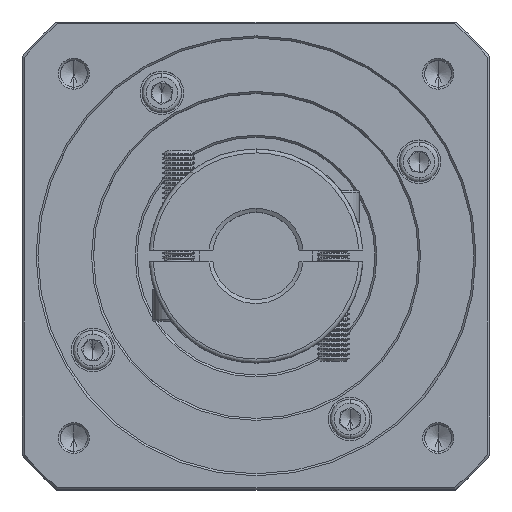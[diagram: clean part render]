
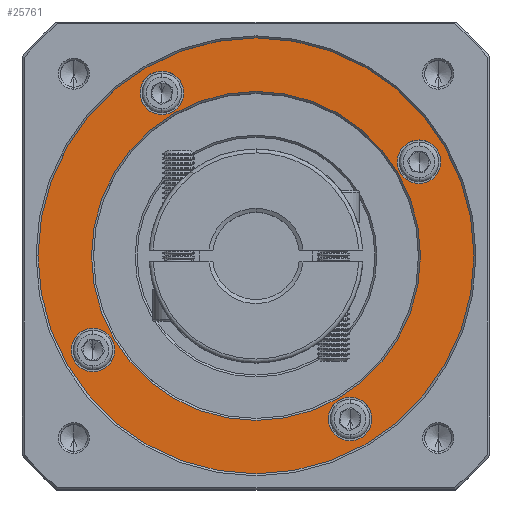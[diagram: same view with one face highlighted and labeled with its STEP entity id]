
A CAD part, top view. The second image highlights one B-rep face of the part: STEP entity #25761.
In plain terms, the highlighted planar face has unit normal (0, 0, 1).
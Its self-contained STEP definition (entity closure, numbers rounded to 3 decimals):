
#2102 = DIRECTION ( 'NONE',  ( 0., 1., 0. ) ) ;
#2251 = CARTESIAN_POINT ( 'NONE',  ( 57.501, 9.474, 8.74 ) ) ;
#3116 = ORIENTED_EDGE ( 'NONE', *, *, #64129, .T. ) ;
#4134 = EDGE_LOOP ( 'NONE', ( #32576, #31984 ) ) ;
#5985 = DIRECTION ( 'NONE',  ( 0., 0., -1. ) ) ;
#6398 = ORIENTED_EDGE ( 'NONE', *, *, #50203, .T. ) ;
#7092 = CARTESIAN_POINT ( 'NONE',  ( 98.637, 88.224, 8.74 ) ) ;
#7119 = CIRCLE ( 'NONE', #124602, 41.5 ) ;
#7774 = AXIS2_PLACEMENT_3D ( 'NONE', #83391, #60469, #135184 ) ;
#10403 = CARTESIAN_POINT ( 'NONE',  ( 16.365, 35.224, 8.74 ) ) ;
#10554 = ORIENTED_EDGE ( 'NONE', *, *, #115553, .T. ) ;
#10648 = CARTESIAN_POINT ( 'NONE',  ( 81.251, 28.838, 8.74 ) ) ;
#10695 = CARTESIAN_POINT ( 'NONE',  ( 57.501, 64.474, 8.74 ) ) ;
#11619 = DIRECTION ( 'NONE',  ( 0., 1., 0. ) ) ;
#13213 = DIRECTION ( 'NONE',  ( 0., 1., 0. ) ) ;
#13602 = CARTESIAN_POINT ( 'NONE',  ( 57.501, 64.474, 8.74 ) ) ;
#15129 = EDGE_CURVE ( 'NONE', #16536, #117195, #61656, .T. ) ;
#15306 = EDGE_LOOP ( 'NONE', ( #10554, #6398 ) ) ;
#15411 = CARTESIAN_POINT ( 'NONE',  ( 57.501, 64.474, 8.74 ) ) ;
#15869 = DIRECTION ( 'NONE',  ( 0., 0., -1. ) ) ;
#16005 = DIRECTION ( 'NONE',  ( 0., 0., -1. ) ) ;
#16536 = VERTEX_POINT ( 'NONE', #49803 ) ;
#16863 = DIRECTION ( 'NONE',  ( 0., 0., -1. ) ) ;
#17492 = AXIS2_PLACEMENT_3D ( 'NONE', #10695, #86152, #21512 ) ;
#17700 = CARTESIAN_POINT ( 'NONE',  ( 98.637, 93.724, 8.74 ) ) ;
#17953 = DIRECTION ( 'NONE',  ( 0., 1., 0. ) ) ;
#18344 = CARTESIAN_POINT ( 'NONE',  ( 16.001, 64.474, 8.74 ) ) ;
#19243 = CARTESIAN_POINT ( 'NONE',  ( 57.501, 119.474, 8.74 ) ) ;
#20431 = ORIENTED_EDGE ( 'NONE', *, *, #83870, .T. ) ;
#21488 = DIRECTION ( 'NONE',  ( 0., 0., 1. ) ) ;
#21512 = DIRECTION ( 'NONE',  ( 0., 1., 0. ) ) ;
#22593 = EDGE_LOOP ( 'NONE', ( #20431, #92758 ) ) ;
#23851 = CARTESIAN_POINT ( 'NONE',  ( 16.365, 46.224, 8.74 ) ) ;
#24418 = DIRECTION ( 'NONE',  ( 0., 1., 0. ) ) ;
#25761 = ADVANCED_FACE ( 'NONE', ( #99359, #106010, #70772, #112810, #55732, #102680 ), #77739, .T. ) ;
#29335 = VERTEX_POINT ( 'NONE', #85839 ) ;
#29792 = EDGE_LOOP ( 'NONE', ( #114916, #3116 ) ) ;
#30704 = VERTEX_POINT ( 'NONE', #45237 ) ;
#31180 = CIRCLE ( 'NONE', #86700, 5.5 ) ;
#31984 = ORIENTED_EDGE ( 'NONE', *, *, #118520, .T. ) ;
#32576 = ORIENTED_EDGE ( 'NONE', *, *, #95059, .T. ) ;
#32582 = VERTEX_POINT ( 'NONE', #19243 ) ;
#37671 = AXIS2_PLACEMENT_3D ( 'NONE', #59987, #60922, #114378 ) ;
#38950 = AXIS2_PLACEMENT_3D ( 'NONE', #67992, #88179, #13213 ) ;
#39657 = VERTEX_POINT ( 'NONE', #10403 ) ;
#42276 = VERTEX_POINT ( 'NONE', #2251 ) ;
#43369 = CIRCLE ( 'NONE', #37671, 5.5 ) ;
#45237 = CARTESIAN_POINT ( 'NONE',  ( 33.751, 111.111, 8.74 ) ) ;
#47091 = AXIS2_PLACEMENT_3D ( 'NONE', #15411, #15869, #110580 ) ;
#47401 = ORIENTED_EDGE ( 'NONE', *, *, #15129, .T. ) ;
#49803 = CARTESIAN_POINT ( 'NONE',  ( 98.637, 82.724, 8.74 ) ) ;
#50203 = EDGE_CURVE ( 'NONE', #115148, #29335, #7119, .T. ) ;
#51616 = CIRCLE ( 'NONE', #38950, 5.5 ) ;
#53576 = ORIENTED_EDGE ( 'NONE', *, *, #76036, .T. ) ;
#55732 = FACE_BOUND ( 'NONE', #4134, .T. ) ;
#58250 = CIRCLE ( 'NONE', #47091, 41.5 ) ;
#59987 = CARTESIAN_POINT ( 'NONE',  ( 16.365, 40.724, 8.74 ) ) ;
#60469 = DIRECTION ( 'NONE',  ( 0., 0., -1. ) ) ;
#60922 = DIRECTION ( 'NONE',  ( 0., 0., -1. ) ) ;
#61656 = CIRCLE ( 'NONE', #115799, 5.5 ) ;
#63046 = VERTEX_POINT ( 'NONE', #10648 ) ;
#64129 = EDGE_CURVE ( 'NONE', #71315, #63046, #66335, .T. ) ;
#64578 = CARTESIAN_POINT ( 'NONE',  ( 57.501, 64.474, 8.74 ) ) ;
#66335 = CIRCLE ( 'NONE', #126778, 5.5 ) ;
#67992 = CARTESIAN_POINT ( 'NONE',  ( 16.365, 40.724, 8.74 ) ) ;
#70666 = DIRECTION ( 'NONE',  ( 0., 1., 0. ) ) ;
#70772 = FACE_BOUND ( 'NONE', #22593, .T. ) ;
#70899 = EDGE_CURVE ( 'NONE', #117195, #16536, #128891, .T. ) ;
#71315 = VERTEX_POINT ( 'NONE', #127396 ) ;
#72385 = VERTEX_POINT ( 'NONE', #23851 ) ;
#72536 = EDGE_LOOP ( 'NONE', ( #127227, #47401 ) ) ;
#73670 = CIRCLE ( 'NONE', #139204, 55. ) ;
#76036 = EDGE_CURVE ( 'NONE', #42276, #32582, #106597, .T. ) ;
#77739 = PLANE ( 'NONE',  #122845 ) ;
#78684 = EDGE_CURVE ( 'NONE', #32582, #42276, #73670, .T. ) ;
#79972 = VERTEX_POINT ( 'NONE', #122949 ) ;
#80136 = DIRECTION ( 'NONE',  ( 1., 0., 0. ) ) ;
#83391 = CARTESIAN_POINT ( 'NONE',  ( 33.751, 105.611, 8.74 ) ) ;
#83870 = EDGE_CURVE ( 'NONE', #30704, #79972, #129987, .T. ) ;
#85839 = CARTESIAN_POINT ( 'NONE',  ( 99.001, 64.474, 8.74 ) ) ;
#86152 = DIRECTION ( 'NONE',  ( 0., 0., 1. ) ) ;
#86700 = AXIS2_PLACEMENT_3D ( 'NONE', #100085, #109004, #2102 ) ;
#88179 = DIRECTION ( 'NONE',  ( 0., 0., -1. ) ) ;
#88475 = DIRECTION ( 'NONE',  ( 0., 1., 0. ) ) ;
#88576 = DIRECTION ( 'NONE',  ( 0., 0., 1. ) ) ;
#89641 = AXIS2_PLACEMENT_3D ( 'NONE', #103464, #5985, #70666 ) ;
#92758 = ORIENTED_EDGE ( 'NONE', *, *, #116201, .T. ) ;
#95059 = EDGE_CURVE ( 'NONE', #72385, #39657, #51616, .T. ) ;
#95094 = ORIENTED_EDGE ( 'NONE', *, *, #78684, .T. ) ;
#99359 = FACE_OUTER_BOUND ( 'NONE', #107501, .T. ) ;
#100085 = CARTESIAN_POINT ( 'NONE',  ( 33.751, 105.611, 8.74 ) ) ;
#102680 = FACE_BOUND ( 'NONE', #29792, .T. ) ;
#103464 = CARTESIAN_POINT ( 'NONE',  ( 98.637, 88.224, 8.74 ) ) ;
#106010 = FACE_BOUND ( 'NONE', #15306, .T. ) ;
#106597 = CIRCLE ( 'NONE', #17492, 55. ) ;
#107501 = EDGE_LOOP ( 'NONE', ( #95094, #53576 ) ) ;
#109004 = DIRECTION ( 'NONE',  ( 0., 0., -1. ) ) ;
#110341 = AXIS2_PLACEMENT_3D ( 'NONE', #121889, #133106, #88475 ) ;
#110580 = DIRECTION ( 'NONE',  ( 1., 0., 0. ) ) ;
#112810 = FACE_BOUND ( 'NONE', #72536, .T. ) ;
#114378 = DIRECTION ( 'NONE',  ( 0., 1., 0. ) ) ;
#114509 = DIRECTION ( 'NONE',  ( 0., 0., -1. ) ) ;
#114916 = ORIENTED_EDGE ( 'NONE', *, *, #138874, .T. ) ;
#115148 = VERTEX_POINT ( 'NONE', #18344 ) ;
#115553 = EDGE_CURVE ( 'NONE', #29335, #115148, #58250, .T. ) ;
#115799 = AXIS2_PLACEMENT_3D ( 'NONE', #7092, #114509, #17953 ) ;
#116201 = EDGE_CURVE ( 'NONE', #79972, #30704, #31180, .T. ) ;
#117195 = VERTEX_POINT ( 'NONE', #17700 ) ;
#118520 = EDGE_CURVE ( 'NONE', #39657, #72385, #43369, .T. ) ;
#121889 = CARTESIAN_POINT ( 'NONE',  ( 81.251, 23.338, 8.74 ) ) ;
#122845 = AXIS2_PLACEMENT_3D ( 'NONE', #13602, #88576, #24418 ) ;
#122949 = CARTESIAN_POINT ( 'NONE',  ( 33.751, 100.111, 8.74 ) ) ;
#123857 = CARTESIAN_POINT ( 'NONE',  ( 81.251, 23.338, 8.74 ) ) ;
#124602 = AXIS2_PLACEMENT_3D ( 'NONE', #133772, #16005, #80136 ) ;
#126778 = AXIS2_PLACEMENT_3D ( 'NONE', #123857, #16863, #134643 ) ;
#127227 = ORIENTED_EDGE ( 'NONE', *, *, #70899, .T. ) ;
#127396 = CARTESIAN_POINT ( 'NONE',  ( 81.251, 17.838, 8.74 ) ) ;
#128891 = CIRCLE ( 'NONE', #89641, 5.5 ) ;
#129987 = CIRCLE ( 'NONE', #7774, 5.5 ) ;
#133106 = DIRECTION ( 'NONE',  ( 0., 0., -1. ) ) ;
#133772 = CARTESIAN_POINT ( 'NONE',  ( 57.501, 64.474, 8.74 ) ) ;
#134643 = DIRECTION ( 'NONE',  ( 0., 1., 0. ) ) ;
#135184 = DIRECTION ( 'NONE',  ( 0., 1., 0. ) ) ;
#138874 = EDGE_CURVE ( 'NONE', #63046, #71315, #139319, .T. ) ;
#139204 = AXIS2_PLACEMENT_3D ( 'NONE', #64578, #21488, #11619 ) ;
#139319 = CIRCLE ( 'NONE', #110341, 5.5 ) ;
